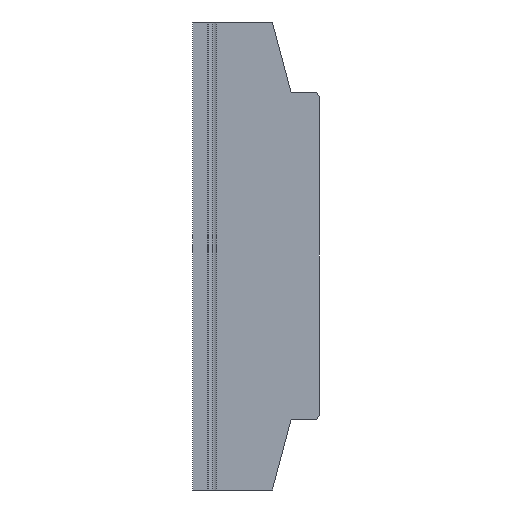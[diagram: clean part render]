
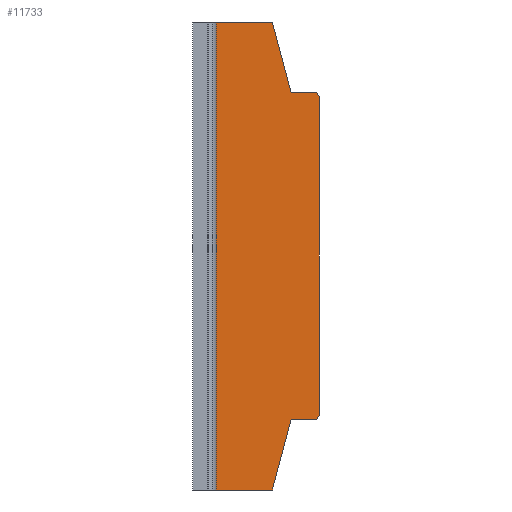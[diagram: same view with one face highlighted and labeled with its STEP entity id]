
A CAD part, left-side view. The second image highlights one B-rep face of the part: STEP entity #11733.
In plain terms, the highlighted planar face has unit normal (-1, 0, 0).
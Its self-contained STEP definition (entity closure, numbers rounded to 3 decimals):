
#68 = VERTEX_POINT ( 'NONE', #6753 ) ;
#167 = DIRECTION ( 'NONE',  ( 0., 0.258, 0.966 ) ) ;
#240 = ORIENTED_EDGE ( 'NONE', *, *, #2091, .T. ) ;
#592 = CARTESIAN_POINT ( 'NONE',  ( -20.5, 0., -50. ) ) ;
#625 = EDGE_LOOP ( 'NONE', ( #649, #9887, #10751, #7909, #8674, #11046, #240, #10930, #12561, #9665 ) ) ;
#649 = ORIENTED_EDGE ( 'NONE', *, *, #1888, .F. ) ;
#713 = VERTEX_POINT ( 'NONE', #3329 ) ;
#750 = CARTESIAN_POINT ( 'NONE',  ( -20.5, -21.423, -35. ) ) ;
#763 = DIRECTION ( 'NONE',  ( 0., -0.5, 0.866 ) ) ;
#773 = LINE ( 'NONE', #4836, #3155 ) ;
#784 = VECTOR ( 'NONE', #8518, 1000. ) ;
#895 = VECTOR ( 'NONE', #5071, 1000. ) ;
#1119 = CARTESIAN_POINT ( 'NONE',  ( -20.5, -12., 50. ) ) ;
#1686 = VERTEX_POINT ( 'NONE', #3205 ) ;
#1888 = EDGE_CURVE ( 'NONE', #6487, #713, #3503, .T. ) ;
#1987 = VECTOR ( 'NONE', #2333, 1000. ) ;
#2091 = EDGE_CURVE ( 'NONE', #4940, #68, #5556, .T. ) ;
#2333 = DIRECTION ( 'NONE',  ( 0., -1., 0. ) ) ;
#2410 = CARTESIAN_POINT ( 'NONE',  ( -20.5, -22., -35. ) ) ;
#2713 = CARTESIAN_POINT ( 'NONE',  ( -20.5, -22., -50. ) ) ;
#2752 = VERTEX_POINT ( 'NONE', #5452 ) ;
#3155 = VECTOR ( 'NONE', #3939, 1000. ) ;
#3205 = CARTESIAN_POINT ( 'NONE',  ( -20.5, -21.423, 35. ) ) ;
#3329 = CARTESIAN_POINT ( 'NONE',  ( -20.5, -22., -34. ) ) ;
#3503 = LINE ( 'NONE', #6329, #784 ) ;
#3790 = EDGE_CURVE ( 'NONE', #6830, #713, #10704, .T. ) ;
#3939 = DIRECTION ( 'NONE',  ( 0., 0.5, 0.866 ) ) ;
#4261 = AXIS2_PLACEMENT_3D ( 'NONE', #12765, #10791, #4847 ) ;
#4276 = LINE ( 'NONE', #10252, #5470 ) ;
#4736 = EDGE_CURVE ( 'NONE', #2752, #11810, #11756, .T. ) ;
#4836 = CARTESIAN_POINT ( 'NONE',  ( -20.5, -21.423, 35. ) ) ;
#4847 = DIRECTION ( 'NONE',  ( 0., 1., 0. ) ) ;
#4940 = VERTEX_POINT ( 'NONE', #592 ) ;
#5071 = DIRECTION ( 'NONE',  ( 0., 0., -1. ) ) ;
#5316 = EDGE_CURVE ( 'NONE', #2752, #4940, #9436, .T. ) ;
#5318 = DIRECTION ( 'NONE',  ( 0., 1., 0. ) ) ;
#5404 = FACE_OUTER_BOUND ( 'NONE', #625, .T. ) ;
#5452 = CARTESIAN_POINT ( 'NONE',  ( -20.5, 0., 50. ) ) ;
#5470 = VECTOR ( 'NONE', #167, 1000. ) ;
#5556 = LINE ( 'NONE', #2713, #11454 ) ;
#5809 = PLANE ( 'NONE',  #4261 ) ;
#5868 = DIRECTION ( 'NONE',  ( 0., -1., 0. ) ) ;
#6329 = CARTESIAN_POINT ( 'NONE',  ( -20.5, -22., 50. ) ) ;
#6487 = VERTEX_POINT ( 'NONE', #11988 ) ;
#6753 = CARTESIAN_POINT ( 'NONE',  ( -20.5, -12., -50. ) ) ;
#6830 = VERTEX_POINT ( 'NONE', #750 ) ;
#6875 = EDGE_CURVE ( 'NONE', #10774, #11810, #4276, .T. ) ;
#6885 = VERTEX_POINT ( 'NONE', #7234 ) ;
#7234 = CARTESIAN_POINT ( 'NONE',  ( -20.5, -16., -35. ) ) ;
#7458 = LINE ( 'NONE', #11035, #8506 ) ;
#7471 = VECTOR ( 'NONE', #763, 1000. ) ;
#7584 = EDGE_CURVE ( 'NONE', #1686, #10774, #11661, .T. ) ;
#7909 = ORIENTED_EDGE ( 'NONE', *, *, #6875, .T. ) ;
#8330 = EDGE_CURVE ( 'NONE', #6487, #1686, #773, .T. ) ;
#8357 = LINE ( 'NONE', #2410, #1987 ) ;
#8361 = CARTESIAN_POINT ( 'NONE',  ( -20.5, -22., 35. ) ) ;
#8381 = VECTOR ( 'NONE', #5318, 1000. ) ;
#8506 = VECTOR ( 'NONE', #10178, 1000. ) ;
#8518 = DIRECTION ( 'NONE',  ( 0., 0., -1. ) ) ;
#8674 = ORIENTED_EDGE ( 'NONE', *, *, #4736, .F. ) ;
#8728 = CARTESIAN_POINT ( 'NONE',  ( -20.5, -22., 50. ) ) ;
#8767 = DIRECTION ( 'NONE',  ( 0., -1., 0. ) ) ;
#9436 = LINE ( 'NONE', #11021, #895 ) ;
#9613 = VECTOR ( 'NONE', #8767, 1000. ) ;
#9645 = CARTESIAN_POINT ( 'NONE',  ( -20.5, -16., 35. ) ) ;
#9665 = ORIENTED_EDGE ( 'NONE', *, *, #3790, .T. ) ;
#9887 = ORIENTED_EDGE ( 'NONE', *, *, #8330, .T. ) ;
#10178 = DIRECTION ( 'NONE',  ( 0., -0.258, 0.966 ) ) ;
#10252 = CARTESIAN_POINT ( 'NONE',  ( -20.5, -16., 35. ) ) ;
#10704 = LINE ( 'NONE', #10781, #7471 ) ;
#10751 = ORIENTED_EDGE ( 'NONE', *, *, #7584, .T. ) ;
#10774 = VERTEX_POINT ( 'NONE', #9645 ) ;
#10781 = CARTESIAN_POINT ( 'NONE',  ( -20.5, -22., -34. ) ) ;
#10791 = DIRECTION ( 'NONE',  ( 1., 0., 0. ) ) ;
#10930 = ORIENTED_EDGE ( 'NONE', *, *, #12119, .T. ) ;
#11021 = CARTESIAN_POINT ( 'NONE',  ( -20.5, 0., 50. ) ) ;
#11035 = CARTESIAN_POINT ( 'NONE',  ( -20.5, -16., -35. ) ) ;
#11046 = ORIENTED_EDGE ( 'NONE', *, *, #5316, .T. ) ;
#11413 = EDGE_CURVE ( 'NONE', #6885, #6830, #8357, .T. ) ;
#11454 = VECTOR ( 'NONE', #5868, 1000. ) ;
#11661 = LINE ( 'NONE', #8361, #8381 ) ;
#11733 = ADVANCED_FACE ( 'NONE', ( #5404 ), #5809, .F. ) ;
#11756 = LINE ( 'NONE', #8728, #9613 ) ;
#11810 = VERTEX_POINT ( 'NONE', #1119 ) ;
#11988 = CARTESIAN_POINT ( 'NONE',  ( -20.5, -22., 34. ) ) ;
#12119 = EDGE_CURVE ( 'NONE', #68, #6885, #7458, .T. ) ;
#12561 = ORIENTED_EDGE ( 'NONE', *, *, #11413, .T. ) ;
#12765 = CARTESIAN_POINT ( 'NONE',  ( -20.5, -22., 50. ) ) ;
